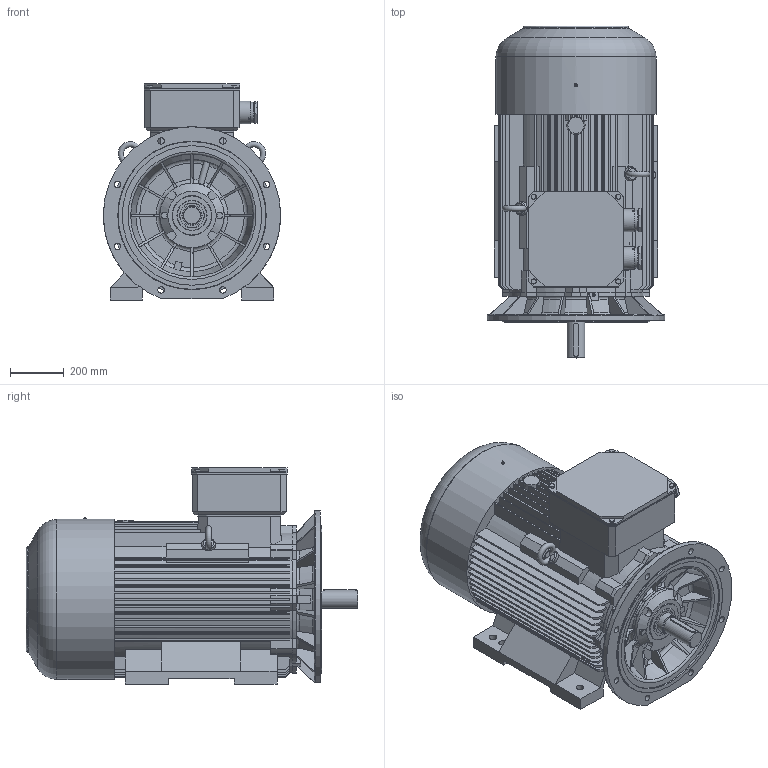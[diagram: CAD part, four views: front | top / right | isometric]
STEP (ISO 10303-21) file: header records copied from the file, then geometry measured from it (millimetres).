
FILE_DESCRIPTION( ( 'Unknown' ), '1' );
FILE_NAME( 'P:/3D_Bry³y silników skatalogowane/SIE/2SIE315/STP_2SIE315/2SIEL315_2.stp', 'Unknown', ( 'Unknown' ), ( 'Unknown' ), 'XStep 1.0', 'Unknown', ' ' );
FILE_SCHEMA( ( 'CONFIG_CONTROL_DESIGN' ) );
Length unit declared in the file: millimetre
Products named in the file (3): 1; 2; 3
Bounding box: 660 x 1235 x 804.5 mm (x, y, z)
Volume: 271276387.8 mm3; surface area: 6871246.1 mm2
Topology: 3 solids, 22 shells, 1281 faces, 3458 edges, 2269 vertices
Faces by surface type: plane 804, cylinder 249, torus 107, cone 105, bspline 16
Full cylindrical faces by diameter (mm): 1.6 x2, 4.917 x2, 5 x4, 10.106 x8, 13.835 x1, 16.63 x4, 19.6 x2, 20.752 x4, 24 x8, 28 x6, 36 x1, 50 x2, 55 x2, 57 x4, 65 x5, 70 x2, 71 x6, 72 x2, 72.752 x2, 74.5 x1, 76 x2, 85 x2, 90 x1, 99.4 x1, 100 x1, 111.399 x1, 112 x1, 119.4 x1, 119.999 x1, 131.399 x1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
Entity records: 49071 total; most frequent: CARTESIAN_POINT 17802, ORIENTED_EDGE 6456, DIRECTION 6268, EDGE_CURVE 3228, VERTEX_POINT 2206, AXIS2_PLACEMENT_3D 2177, LINE 1914, VECTOR 1914
